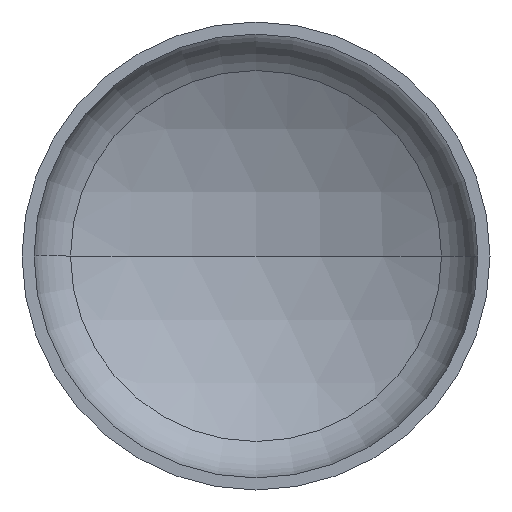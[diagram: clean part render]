
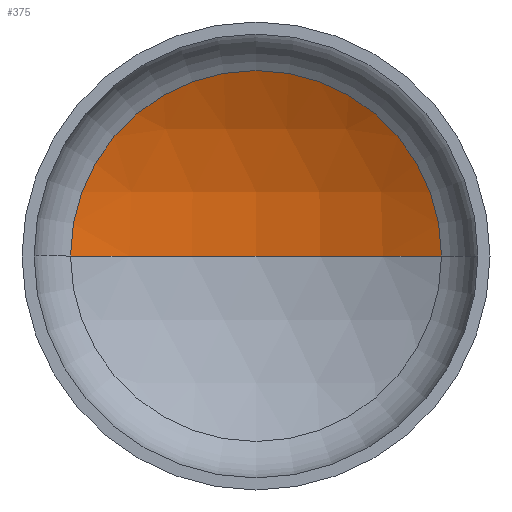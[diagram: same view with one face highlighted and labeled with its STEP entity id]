
A CAD part, front view. The second image highlights one B-rep face of the part: STEP entity #375.
In plain terms, the highlighted spherical face has radius 3600 mm.
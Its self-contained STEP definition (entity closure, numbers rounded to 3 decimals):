
#22 = EDGE_CURVE ( 'NONE', #107, #92, #380, .T. ) ;
#23 = EDGE_CURVE ( 'NONE', #99, #107, #257, .T. ) ;
#24 = EDGE_LOOP ( 'NONE', ( #39, #75, #32 ) ) ;
#32 = ORIENTED_EDGE ( 'NONE', *, *, #22, .T. ) ;
#39 = ORIENTED_EDGE ( 'NONE', *, *, #64, .F. ) ;
#49 = CARTESIAN_POINT ( 'NONE',  ( -1783.27, 678.741, 0. ) ) ;
#64 = EDGE_CURVE ( 'NONE', #99, #92, #292, .T. ) ;
#75 = ORIENTED_EDGE ( 'NONE', *, *, #23, .T. ) ;
#92 = VERTEX_POINT ( 'NONE', #49 ) ;
#99 = VERTEX_POINT ( 'NONE', #218 ) ;
#104 = AXIS2_PLACEMENT_3D ( 'NONE', #222, #209, #204 ) ;
#107 = VERTEX_POINT ( 'NONE', #269 ) ;
#140 = AXIS2_PLACEMENT_3D ( 'NONE', #194, #196, #353 ) ;
#190 = AXIS2_PLACEMENT_3D ( 'NONE', #217, #223, #264 ) ;
#194 = CARTESIAN_POINT ( 'NONE',  ( 0., -2448.55, 0. ) ) ;
#196 = DIRECTION ( 'NONE',  ( 0., 0., -1. ) ) ;
#204 = DIRECTION ( 'NONE',  ( 1., 0., 0. ) ) ;
#209 = DIRECTION ( 'NONE',  ( 0., -1., 0. ) ) ;
#217 = CARTESIAN_POINT ( 'NONE',  ( 0., -2448.55, 0. ) ) ;
#218 = CARTESIAN_POINT ( 'NONE',  ( 0., 1151.45, 0. ) ) ;
#222 = CARTESIAN_POINT ( 'NONE',  ( 0., 678.741, 0. ) ) ;
#223 = DIRECTION ( 'NONE',  ( 0., 0., -1. ) ) ;
#232 = DIRECTION ( 'NONE',  ( 1., 0., 0. ) ) ;
#233 = DIRECTION ( 'NONE',  ( 0., 0., 1. ) ) ;
#236 = AXIS2_PLACEMENT_3D ( 'NONE', #238, #233, #232 ) ;
#238 = CARTESIAN_POINT ( 'NONE',  ( 0., -2448.55, 0. ) ) ;
#257 = CIRCLE ( 'NONE', #140, 3600. ) ;
#264 = DIRECTION ( 'NONE',  ( -1., 0., 0. ) ) ;
#269 = CARTESIAN_POINT ( 'NONE',  ( 1783.27, 678.741, 0. ) ) ;
#292 = CIRCLE ( 'NONE', #236, 3600. ) ;
#312 = SPHERICAL_SURFACE ( 'NONE', #190, 3600. ) ;
#353 = DIRECTION ( 'NONE',  ( -1., 0., 0. ) ) ;
#375 = ADVANCED_FACE ( 'NONE', ( #390 ), #312, .F. ) ;
#380 = CIRCLE ( 'NONE', #104, 1783.27 ) ;
#390 = FACE_OUTER_BOUND ( 'NONE', #24, .T. ) ;
